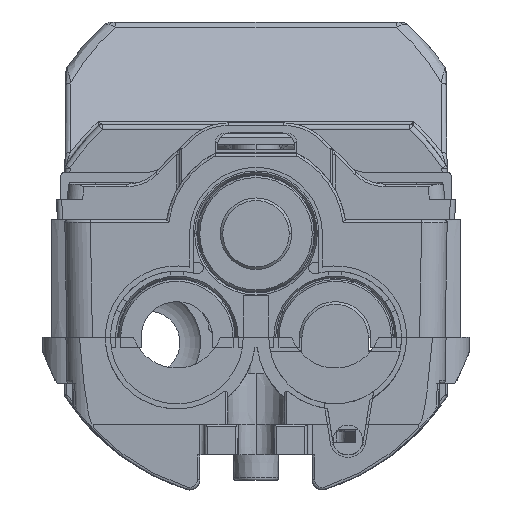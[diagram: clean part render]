
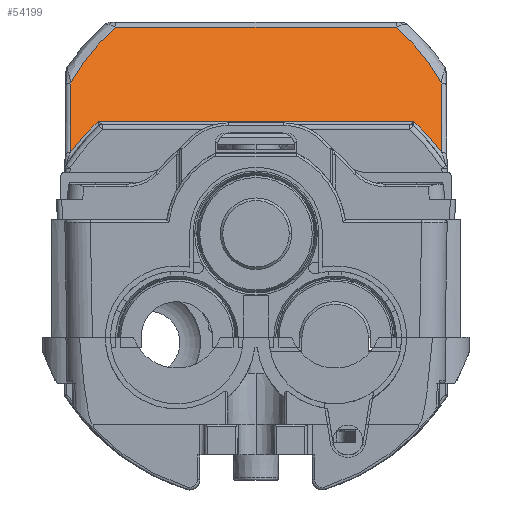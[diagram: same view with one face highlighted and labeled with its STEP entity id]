
A CAD part, left-side view. The second image highlights one B-rep face of the part: STEP entity #54199.
In plain terms, the highlighted planar face has unit normal (-0.866, 0, 0.5).
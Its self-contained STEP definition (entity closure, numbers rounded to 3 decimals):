
#1392 = EDGE_CURVE ( 'NONE', #23734, #47973, #4667, .T. ) ;
#1412 = CARTESIAN_POINT ( 'NONE',  ( -247.83, 27.457, 94.75 ) ) ;
#1618 = CARTESIAN_POINT ( 'NONE',  ( -262.02, 36.383, 70.173 ) ) ;
#1892 = VERTEX_POINT ( 'NONE', #35441 ) ;
#1903 = ORIENTED_EDGE ( 'NONE', *, *, #54857, .T. ) ;
#2125 = DIRECTION ( 'NONE',  ( -0.5, 0.008, -0.866 ) ) ;
#2424 = VERTEX_POINT ( 'NONE', #1618 ) ;
#4606 = EDGE_CURVE ( 'NONE', #8039, #2424, #10812, .T. ) ;
#4667 = LINE ( 'NONE', #17048, #17016 ) ;
#5693 = CARTESIAN_POINT ( 'NONE',  ( -258.807, 36.334, 75.737 ) ) ;
#6985 = VERTEX_POINT ( 'NONE', #9893 ) ;
#7244 = DIRECTION ( 'NONE',  ( 0., -1., 0. ) ) ;
#7838 = ORIENTED_EDGE ( 'NONE', *, *, #56701, .T. ) ;
#8039 = VERTEX_POINT ( 'NONE', #40904 ) ;
#8208 = CARTESIAN_POINT ( 'NONE',  ( -259.584, 32.907, 74.392 ) ) ;
#8939 = CARTESIAN_POINT ( 'NONE',  ( -260.757, -34.74, 72.361 ) ) ;
#9893 = CARTESIAN_POINT ( 'NONE',  ( -247.83, -27.457, 94.75 ) ) ;
#10312 = EDGE_CURVE ( 'NONE', #19055, #8039, #40076, .T. ) ;
#10580 = CARTESIAN_POINT ( 'NONE',  ( -251.762, 33.965, 87.941 ) ) ;
#10812 = LINE ( 'NONE', #5693, #56851 ) ;
#11242 = EDGE_LOOP ( 'NONE', ( #7838, #37380, #18820, #15677, #35184, #1903, #19499, #54313 ) ) ;
#11467 = EDGE_CURVE ( 'NONE', #6985, #19055, #24065, .T. ) ;
#15677 = ORIENTED_EDGE ( 'NONE', *, *, #4606, .T. ) ;
#16248 = DIRECTION ( 'NONE',  ( 0.5, 0.008, 0.866 ) ) ;
#16606 = CARTESIAN_POINT ( 'NONE',  ( -258.511, 38.25, 76.25 ) ) ;
#17016 = VECTOR ( 'NONE', #16248, 1000. ) ;
#17048 = CARTESIAN_POINT ( 'NONE',  ( -258.518, -36.33, 76.238 ) ) ;
#18616 = CARTESIAN_POINT ( 'NONE',  ( -247.83, 27.457, 94.75 ) ) ;
#18820 = ORIENTED_EDGE ( 'NONE', *, *, #10312, .T. ) ;
#19055 = VERTEX_POINT ( 'NONE', #18616 ) ;
#19499 = ORIENTED_EDGE ( 'NONE', *, *, #42210, .T. ) ;
#19654 =( BOUNDED_CURVE ( )  B_SPLINE_CURVE ( 3, ( #44381, #40205, #49457, #22136 ),
 .UNSPECIFIED., .F., .F. ) 
 B_SPLINE_CURVE_WITH_KNOTS ( ( 4, 4 ),
 ( 5.22, 5.56 ),
 .UNSPECIFIED. ) 
 CURVE ( )  GEOMETRIC_REPRESENTATION_ITEM ( )  RATIONAL_B_SPLINE_CURVE ( ( 1., 0.99, 0.99, 1. ) ) 
 REPRESENTATION_ITEM ( '' )  );
#21279 =( BOUNDED_CURVE ( )  B_SPLINE_CURVE ( 3, ( #58695, #54008, #8208, #40591 ),
 .UNSPECIFIED., .F., .F. ) 
 B_SPLINE_CURVE_WITH_KNOTS ( ( 4, 4 ),
 ( 2.215, 2.395 ),
 .UNSPECIFIED. ) 
 CURVE ( )  GEOMETRIC_REPRESENTATION_ITEM ( )  RATIONAL_B_SPLINE_CURVE ( ( 1., 0.997, 0.997, 1. ) ) 
 REPRESENTATION_ITEM ( '' )  );
#22136 = CARTESIAN_POINT ( 'NONE',  ( -247.83, -27.457, 94.75 ) ) ;
#23547 = CARTESIAN_POINT ( 'NONE',  ( -258.8, 38.25, 75.75 ) ) ;
#23734 = VERTEX_POINT ( 'NONE', #55006 ) ;
#24025 = EDGE_CURVE ( 'NONE', #2424, #1892, #21279, .T. ) ;
#24065 = LINE ( 'NONE', #49818, #59015 ) ;
#28060 = DIRECTION ( 'NONE',  ( 0.5, 0., 0.866 ) ) ;
#30601 = LINE ( 'NONE', #16606, #41384 ) ;
#35184 = ORIENTED_EDGE ( 'NONE', *, *, #24025, .T. ) ;
#35441 = CARTESIAN_POINT ( 'NONE',  ( -258.511, 30.898, 76.25 ) ) ;
#36095 = DIRECTION ( 'NONE',  ( 0., 1., 0. ) ) ;
#36410 = AXIS2_PLACEMENT_3D ( 'NONE', #23547, #55359, #28060 ) ;
#37380 = ORIENTED_EDGE ( 'NONE', *, *, #11467, .T. ) ;
#40076 =( BOUNDED_CURVE ( )  B_SPLINE_CURVE ( 3, ( #1412, #47318, #10580, #42943 ),
 .UNSPECIFIED., .F., .T. ) 
 B_SPLINE_CURVE_WITH_KNOTS ( ( 4, 4 ),
 ( 0.723, 1.063 ),
 .UNSPECIFIED. ) 
 CURVE ( )  GEOMETRIC_REPRESENTATION_ITEM ( )  RATIONAL_B_SPLINE_CURVE ( ( 1., 0.99, 0.99, 1. ) ) 
 REPRESENTATION_ITEM ( '' )  );
#40205 = CARTESIAN_POINT ( 'NONE',  ( -251.762, -33.965, 87.941 ) ) ;
#40591 = CARTESIAN_POINT ( 'NONE',  ( -258.511, 30.898, 76.25 ) ) ;
#40904 = CARTESIAN_POINT ( 'NONE',  ( -254.146, 36.264, 83.81 ) ) ;
#41324 = CARTESIAN_POINT ( 'NONE',  ( -262.02, -36.383, 70.173 ) ) ;
#41384 = VECTOR ( 'NONE', #7244, 1000. ) ;
#42174 = FACE_OUTER_BOUND ( 'NONE', #11242, .T. ) ;
#42210 = EDGE_CURVE ( 'NONE', #58837, #23734, #57394, .T. ) ;
#42943 = CARTESIAN_POINT ( 'NONE',  ( -254.146, 36.264, 83.81 ) ) ;
#44381 = CARTESIAN_POINT ( 'NONE',  ( -254.146, -36.264, 83.81 ) ) ;
#44615 = CARTESIAN_POINT ( 'NONE',  ( -258.511, -30.898, 76.25 ) ) ;
#45505 = CARTESIAN_POINT ( 'NONE',  ( -259.584, -32.907, 74.392 ) ) ;
#47318 = CARTESIAN_POINT ( 'NONE',  ( -249.636, 31.001, 91.623 ) ) ;
#47973 = VERTEX_POINT ( 'NONE', #59383 ) ;
#49457 = CARTESIAN_POINT ( 'NONE',  ( -249.636, -31.001, 91.623 ) ) ;
#49818 = CARTESIAN_POINT ( 'NONE',  ( -247.83, 26.28, 94.75 ) ) ;
#50181 = CARTESIAN_POINT ( 'NONE',  ( -258.511, -30.898, 76.25 ) ) ;
#50756 = PLANE ( 'NONE',  #36410 ) ;
#54008 = CARTESIAN_POINT ( 'NONE',  ( -260.757, 34.74, 72.361 ) ) ;
#54199 = ADVANCED_FACE ( 'NONE', ( #42174 ), #50756, .T. ) ;
#54313 = ORIENTED_EDGE ( 'NONE', *, *, #1392, .T. ) ;
#54857 = EDGE_CURVE ( 'NONE', #1892, #58837, #30601, .T. ) ;
#55006 = CARTESIAN_POINT ( 'NONE',  ( -262.02, -36.383, 70.173 ) ) ;
#55359 = DIRECTION ( 'NONE',  ( -0.866, 0., 0.5 ) ) ;
#56701 = EDGE_CURVE ( 'NONE', #47973, #6985, #19654, .T. ) ;
#56851 = VECTOR ( 'NONE', #2125, 1000. ) ;
#57394 =( BOUNDED_CURVE ( )  B_SPLINE_CURVE ( 3, ( #50181, #45505, #8939, #41324 ),
 .UNSPECIFIED., .F., .F. ) 
 B_SPLINE_CURVE_WITH_KNOTS ( ( 4, 4 ),
 ( 3.888, 4.068 ),
 .UNSPECIFIED. ) 
 CURVE ( )  GEOMETRIC_REPRESENTATION_ITEM ( )  RATIONAL_B_SPLINE_CURVE ( ( 1., 0.997, 0.997, 1. ) ) 
 REPRESENTATION_ITEM ( '' )  );
#58695 = CARTESIAN_POINT ( 'NONE',  ( -262.02, 36.383, 70.173 ) ) ;
#58837 = VERTEX_POINT ( 'NONE', #44615 ) ;
#59015 = VECTOR ( 'NONE', #36095, 1000. ) ;
#59383 = CARTESIAN_POINT ( 'NONE',  ( -254.146, -36.264, 83.81 ) ) ;
